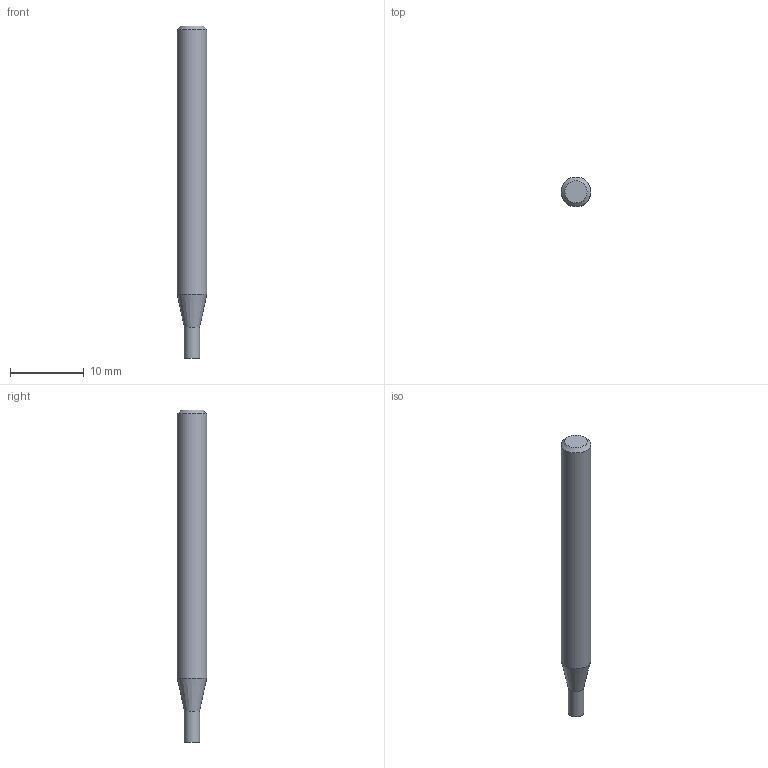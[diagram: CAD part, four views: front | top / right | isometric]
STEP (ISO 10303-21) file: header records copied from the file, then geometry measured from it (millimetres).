
FILE_DESCRIPTION((''),'2;1');
FILE_NAME('C:\Users\nsx150\AppData\Local\Temp\Mastercam 2021\E36A1X9CCL\TEMP.step','2023-04-21T15:12:27',(''),(''),'STEP Write','Mastercam 2021 ... CNC Software, Inc.','');
FILE_SCHEMA(('AUTOMOTIVE_DESIGN'));
Length unit declared in the file: millimetre
Products named in the file (1): None
Bounding box: 4 x 4 x 45 mm (x, y, z)
Volume: 503.4 mm3; surface area: 547 mm2
Topology: 2 solids, 2 shells, 8 faces, 10 edges, 6 vertices
Faces by surface type: plane 4, cylinder 2, cone 2
Full cylindrical faces by diameter (mm): 2.1 x1, 4 x1
Entity records: 190 total; most frequent: DIRECTION 32, CARTESIAN_POINT 22, AXIS2_PLACEMENT_3D 16, ORIENTED_EDGE 12, EDGE_LOOP 12, STYLED_ITEM 11, ADVANCED_FACE 8, VERTEX_POINT 6
